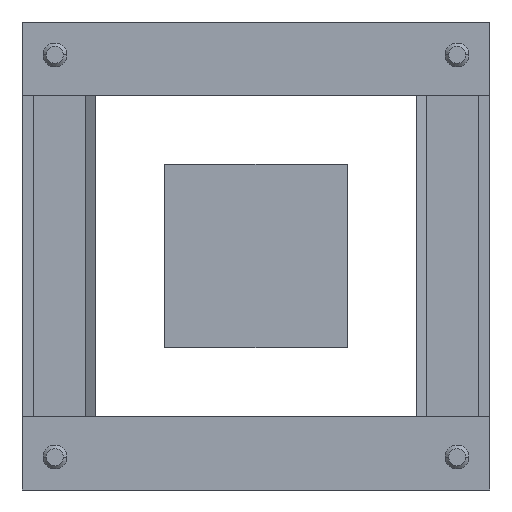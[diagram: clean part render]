
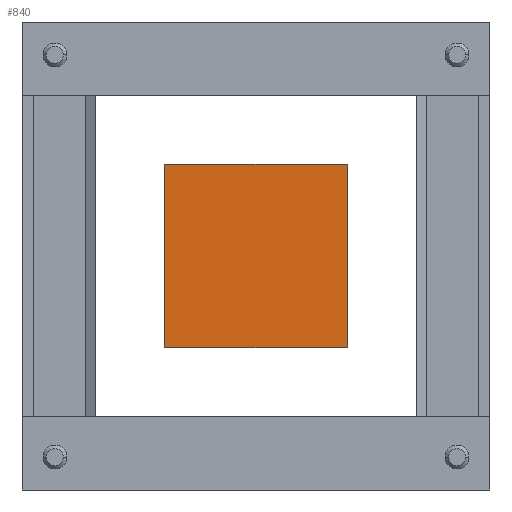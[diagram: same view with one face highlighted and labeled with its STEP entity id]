
A CAD part, front view. The second image highlights one B-rep face of the part: STEP entity #840.
In plain terms, the highlighted planar face has unit normal (0, -1, 0) as drawn and (0, 0, 1) by its records, which use the part's own axes.
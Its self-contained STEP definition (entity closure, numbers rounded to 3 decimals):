
#796 = VERTEX_POINT ( 'NONE', #2435 ) ;
#798 = EDGE_CURVE ( 'NONE', #799, #796, #2304, .T. ) ;
#799 = VERTEX_POINT ( 'NONE', #2302 ) ;
#838 = EDGE_CURVE ( 'NONE', #842, #799, #2287, .T. ) ;
#840 = ADVANCED_FACE ( 'NONE', ( #2283 ), #2288, .T. ) ;
#842 = VERTEX_POINT ( 'NONE', #2355 ) ;
#895 = EDGE_LOOP ( 'NONE', ( #896, #897, #898, #899 ) ) ;
#896 = ORIENTED_EDGE ( 'NONE', *, *, #798, .T. ) ;
#897 = ORIENTED_EDGE ( 'NONE', *, *, #996, .T. ) ;
#898 = ORIENTED_EDGE ( 'NONE', *, *, #959, .T. ) ;
#899 = ORIENTED_EDGE ( 'NONE', *, *, #838, .T. ) ;
#959 = EDGE_CURVE ( 'NONE', #994, #842, #2579, .T. ) ;
#994 = VERTEX_POINT ( 'NONE', #2643 ) ;
#996 = EDGE_CURVE ( 'NONE', #796, #994, #2642, .T. ) ;
#2283 = FACE_OUTER_BOUND ( 'NONE', #895, .T. ) ;
#2284 = DIRECTION ( 'NONE',  ( 1., 0., 0. ) ) ;
#2285 = VECTOR ( 'NONE', #2284, 1000. ) ;
#2286 = CARTESIAN_POINT ( 'NONE',  ( -8.045, -8.095, 1. ) ) ;
#2287 = LINE ( 'NONE', #2286, #2285 ) ;
#2288 = PLANE ( 'NONE',  #2447 ) ;
#2302 = CARTESIAN_POINT ( 'NONE',  ( 8.045, -8.095, 1. ) ) ;
#2303 = VECTOR ( 'NONE', #2358, 1000. ) ;
#2304 = LINE ( 'NONE', #2359, #2303 ) ;
#2355 = CARTESIAN_POINT ( 'NONE',  ( -8.045, -8.095, 1. ) ) ;
#2358 = DIRECTION ( 'NONE',  ( 0., 1., 0. ) ) ;
#2359 = CARTESIAN_POINT ( 'NONE',  ( 8.045, 8.095, 1. ) ) ;
#2435 = CARTESIAN_POINT ( 'NONE',  ( 8.045, 8.095, 1. ) ) ;
#2444 = DIRECTION ( 'NONE',  ( 1., 0., 0. ) ) ;
#2445 = DIRECTION ( 'NONE',  ( 0., 0., 1. ) ) ;
#2446 = CARTESIAN_POINT ( 'NONE',  ( 8.045, -8.095, 1. ) ) ;
#2447 = AXIS2_PLACEMENT_3D ( 'NONE', #2446, #2445, #2444 ) ;
#2561 = DIRECTION ( 'NONE',  ( 0., -1., 0. ) ) ;
#2562 = VECTOR ( 'NONE', #2561, 1000. ) ;
#2563 = CARTESIAN_POINT ( 'NONE',  ( -8.045, 8.095, 1. ) ) ;
#2579 = LINE ( 'NONE', #2563, #2562 ) ;
#2639 = DIRECTION ( 'NONE',  ( -1., 0., 0. ) ) ;
#2640 = VECTOR ( 'NONE', #2639, 1000. ) ;
#2641 = CARTESIAN_POINT ( 'NONE',  ( -8.045, 8.095, 1. ) ) ;
#2642 = LINE ( 'NONE', #2641, #2640 ) ;
#2643 = CARTESIAN_POINT ( 'NONE',  ( -8.045, 8.095, 1. ) ) ;
